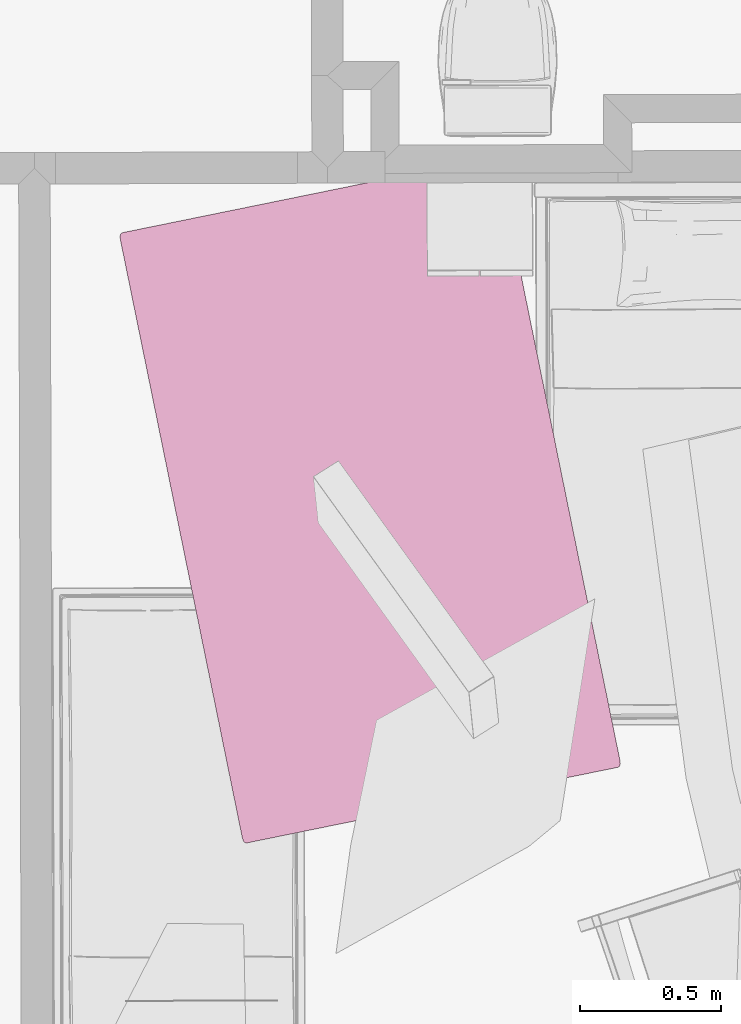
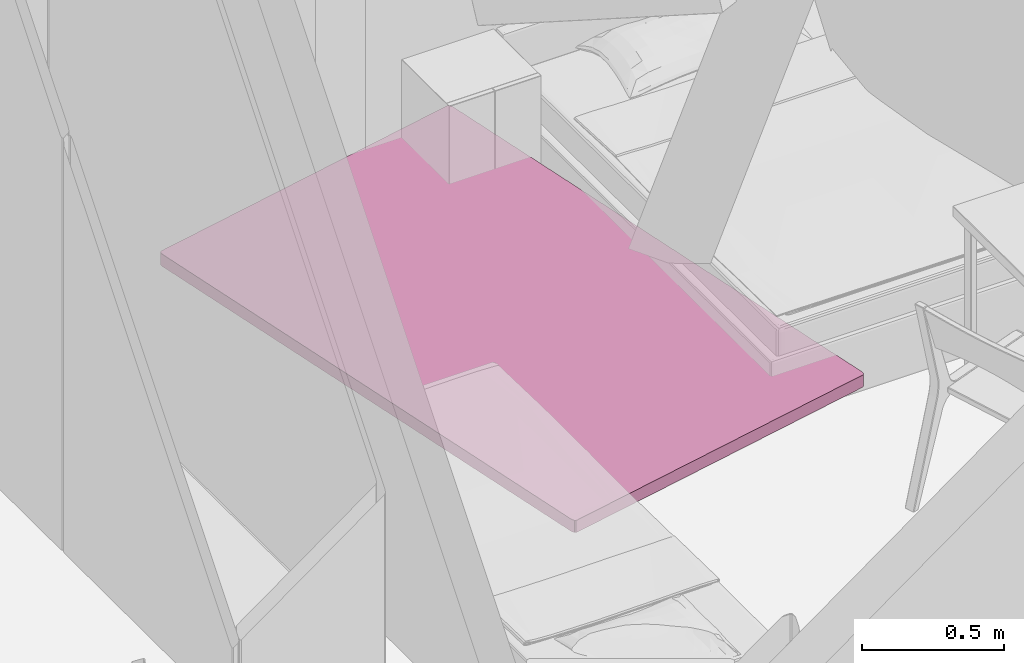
# One storey, part 8 of 15: 1 furniture element.
"""IFC4 building model written with IfcOpenShell, lengths in metres."""

from ifc_helpers import new_model, si_unit, direction, frame, origin_with_axes, place, context, project, spatial, polygons, element, save


model = new_model("IFC4")

# Units and contexts
model_context = context("Model", 3, precision=1e-05, world=origin_with_axes(), true_north=direction((-0.077, 0.997, 0.0)))
ifc_project = project(units=[si_unit("AREAUNIT", "SQUARE_METRE"), si_unit("LENGTHUNIT", "METRE")], contexts=[model_context])

# Site, building, storey, space
site_placement = place(None, origin_with_axes())
site = spatial("IfcSite", under=ifc_project, at=site_placement, Name="Site", CompositionType="ELEMENT")
building_placement = place(site_placement, origin_with_axes())
building = spatial("IfcBuilding", under=site, at=building_placement, Name="Building", CompositionType="ELEMENT")
storey_placement = place(building_placement, frame((0.0, 0.0, 5.71135139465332), z_axis=(0.0, 0.0, 1.0), x_axis=(1.0, 0.0, 0.0)))
storey = spatial("IfcBuildingStorey", under=building, at=storey_placement, Name="Story 2", CompositionType="ELEMENT", Elevation=5.71135139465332)
space_placement = place(storey_placement, frame((4.15984517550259, -1.64373686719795, 0.0), z_axis=(0.0, 0.0, 1.0), x_axis=(1.0, 0.0, 0.0)))
space = spatial("IfcSpace", under=storey, at=space_placement, Name="016", CompositionType="ELEMENT")

# Furniture
furniture_placement = place(space_placement, frame((1.13524597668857, -1.12051078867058, 0.165680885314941), z_axis=(0.0, 0.0, 0.999999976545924), x_axis=(-0.979850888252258, -0.199730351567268, 0.0)))
element("IfcFurniture", 1, at=furniture_placement, inside=space, Name="sb2", PredefinedType="USERDEFINED", context=model_context, shape_type="Tessellation", body=[
    polygons([(-0.6835, 1.0822, 0.0262), (-0.6835, 1.0822, -0.0262), (-0.6835, -1.0822, -0.0262), (-0.6835, -1.0822, 0.0262), (0.6835, 1.0822, 0.0262), (0.6835, -1.0822, 0.0262), (0.6835, -1.0822, -0.0262), (0.6835, 1.0822, -0.0262), (-0.6698, 1.1043, 0.0262), (0.6698, 1.1043, 0.0262), (0.6698, 1.1043, -0.0262), (-0.6698, 1.1043, -0.0262), (-0.6698, 1.0822, -0.0267), (0.6698, 1.0822, -0.0267), (0.6698, -1.0822, -0.0267), (-0.6698, -1.0822, -0.0267), (-0.6698, -1.1043, -0.0262), (0.6698, -1.1043, -0.0262), (0.6698, -1.1043, 0.0262), (-0.6698, -1.1043, 0.0262), (-0.6698, -1.0822, 0.0267), (0.6698, -1.0822, 0.0267), (0.6698, 1.0822, 0.0267), (-0.6698, 1.0822, 0.0267), (-0.6835, 1.0822, 0.0262), (-0.6826, 1.0822, 0.0264), (-0.6817, 1.0912, 0.0264), (-0.6826, 1.0919, 0.0262), (-0.6826, 1.0822, 0.0264), (-0.68, 1.0822, 0.0266), (-0.6796, 1.0898, 0.0266), (-0.6817, 1.0912, 0.0264), (-0.6826, 1.0919, 0.0262), (-0.6817, 1.0912, 0.0264), (-0.6796, 1.0981, 0.0264), (-0.68, 1.0988, 0.0262), (-0.6817, 1.0912, 0.0264), (-0.6796, 1.0898, 0.0266), (-0.6783, 1.096, 0.0265), (-0.6796, 1.0981, 0.0264), (-0.6835, -1.0822, 0.0262), (-0.6826, -1.0919, 0.0262), (-0.6817, -1.0912, 0.0264), (-0.6826, -1.0822, 0.0264), (-0.6826, -1.0919, 0.0262), (-0.68, -1.0988, 0.0262), (-0.6796, -1.0981, 0.0264), (-0.6817, -1.0912, 0.0264), (-0.6826, -1.0822, 0.0264), (-0.6817, -1.0912, 0.0264), (-0.6796, -1.0898, 0.0266), (-0.68, -1.0822, 0.0266), (-0.6817, -1.0912, 0.0264), (-0.6796, -1.0981, 0.0264), (-0.6783, -1.096, 0.0265), (-0.6796, -1.0898, 0.0266), (-0.6835, -1.0822, -0.0262), (-0.6826, -1.0822, -0.0264), (-0.6817, -1.0912, -0.0264), (-0.6826, -1.0919, -0.0262), (-0.6826, -1.0822, -0.0264), (-0.68, -1.0822, -0.0266), (-0.6796, -1.0898, -0.0266), (-0.6817, -1.0912, -0.0264), (-0.6826, -1.0919, -0.0262), (-0.6817, -1.0912, -0.0264), (-0.6796, -1.0981, -0.0264), (-0.68, -1.0988, -0.0262), (-0.6817, -1.0912, -0.0264), (-0.6796, -1.0898, -0.0266), (-0.6783, -1.096, -0.0265), (-0.6796, -1.0981, -0.0264), (-0.6835, 1.0822, -0.0262), (-0.6826, 1.0919, -0.0262), (-0.6817, 1.0912, -0.0264), (-0.6826, 1.0822, -0.0264), (-0.6826, 1.0919, -0.0262), (-0.68, 1.0988, -0.0262), (-0.6796, 1.0981, -0.0264), (-0.6817, 1.0912, -0.0264), (-0.6826, 1.0822, -0.0264), (-0.6817, 1.0912, -0.0264), (-0.6796, 1.0898, -0.0266), (-0.68, 1.0822, -0.0266), (-0.6817, 1.0912, -0.0264), (-0.6796, 1.0981, -0.0264), (-0.6783, 1.096, -0.0265), (-0.6796, 1.0898, -0.0266), (0.6835, 1.0822, 0.0262), (0.6826, 1.0919, 0.0262), (0.6817, 1.0912, 0.0264), (0.6826, 1.0822, 0.0264), (0.6826, 1.0919, 0.0262), (0.68, 1.0988, 0.0262), (0.6796, 1.0981, 0.0264), (0.6817, 1.0912, 0.0264), (0.6826, 1.0822, 0.0264), (0.6817, 1.0912, 0.0264), (0.6796, 1.0898, 0.0266), (0.68, 1.0822, 0.0266), (0.6817, 1.0912, 0.0264), (0.6796, 1.0981, 0.0264), (0.6783, 1.096, 0.0265), (0.6796, 1.0898, 0.0266), (0.6835, 1.0822, -0.0262), (0.6826, 1.0822, -0.0264), (0.6817, 1.0912, -0.0264), (0.6826, 1.0919, -0.0262), (0.6826, 1.0822, -0.0264), (0.68, 1.0822, -0.0266), (0.6796, 1.0898, -0.0266), (0.6817, 1.0912, -0.0264), (0.6826, 1.0919, -0.0262), (0.6817, 1.0912, -0.0264), (0.6796, 1.0981, -0.0264), (0.68, 1.0988, -0.0262), (0.6817, 1.0912, -0.0264), (0.6796, 1.0898, -0.0266), (0.6783, 1.096, -0.0265), (0.6796, 1.0981, -0.0264), (0.6835, -1.0822, -0.0262), (0.6826, -1.0919, -0.0262), (0.6817, -1.0912, -0.0264), (0.6826, -1.0822, -0.0264), (0.6826, -1.0919, -0.0262), (0.68, -1.0988, -0.0262), (0.6796, -1.0981, -0.0264), (0.6817, -1.0912, -0.0264), (0.6826, -1.0822, -0.0264), (0.6817, -1.0912, -0.0264), (0.6796, -1.0898, -0.0266), (0.68, -1.0822, -0.0266), (0.6817, -1.0912, -0.0264), (0.6796, -1.0981, -0.0264), (0.6783, -1.096, -0.0265), (0.6796, -1.0898, -0.0266), (0.6835, -1.0822, 0.0262), (0.6826, -1.0822, 0.0264), (0.6817, -1.0912, 0.0264), (0.6826, -1.0919, 0.0262), (0.6826, -1.0822, 0.0264), (0.68, -1.0822, 0.0266), (0.6796, -1.0898, 0.0266), (0.6817, -1.0912, 0.0264), (0.6826, -1.0919, 0.0262), (0.6817, -1.0912, 0.0264), (0.6796, -1.0981, 0.0264), (0.68, -1.0988, 0.0262), (0.6817, -1.0912, 0.0264), (0.6796, -1.0898, 0.0266), (0.6783, -1.096, 0.0265), (0.6796, -1.0981, 0.0264), (-0.6698, 1.1043, 0.0262), (-0.6758, 1.103, 0.0262), (-0.6753, 1.1016, 0.0264), (-0.6698, 1.103, 0.0264), (-0.6758, 1.103, 0.0262), (-0.68, 1.0988, 0.0262), (-0.6796, 1.0981, 0.0264), (-0.6753, 1.1016, 0.0264), (-0.6698, 1.103, 0.0264), (-0.6753, 1.1016, 0.0264), (-0.6745, 1.0981, 0.0266), (-0.6698, 1.0988, 0.0266), (-0.6753, 1.1016, 0.0264), (-0.6796, 1.0981, 0.0264), (-0.6783, 1.096, 0.0265), (-0.6745, 1.0981, 0.0266), (-0.6698, 1.1043, -0.0262), (-0.6698, 1.103, -0.0264), (-0.6753, 1.1016, -0.0264), (-0.6758, 1.103, -0.0262), (-0.6698, 1.103, -0.0264), (-0.6698, 1.0988, -0.0266), (-0.6745, 1.0981, -0.0266), (-0.6753, 1.1016, -0.0264), (-0.6758, 1.103, -0.0262), (-0.6753, 1.1016, -0.0264), (-0.6796, 1.0981, -0.0264), (-0.68, 1.0988, -0.0262), (-0.6753, 1.1016, -0.0264), (-0.6745, 1.0981, -0.0266), (-0.6783, 1.096, -0.0265), (-0.6796, 1.0981, -0.0264), (0.6698, 1.1043, -0.0262), (0.6758, 1.103, -0.0262), (0.6753, 1.1016, -0.0264), (0.6698, 1.103, -0.0264), (0.6758, 1.103, -0.0262), (0.68, 1.0988, -0.0262), (0.6796, 1.0981, -0.0264), (0.6753, 1.1016, -0.0264), (0.6698, 1.103, -0.0264), (0.6753, 1.1016, -0.0264), (0.6745, 1.0981, -0.0266), (0.6698, 1.0988, -0.0266), (0.6753, 1.1016, -0.0264), (0.6796, 1.0981, -0.0264), (0.6783, 1.096, -0.0265), (0.6745, 1.0981, -0.0266), (0.6698, 1.1043, 0.0262), (0.6698, 1.103, 0.0264), (0.6753, 1.1016, 0.0264), (0.6758, 1.103, 0.0262), (0.6698, 1.103, 0.0264), (0.6698, 1.0988, 0.0266), (0.6745, 1.0981, 0.0266), (0.6753, 1.1016, 0.0264), (0.6758, 1.103, 0.0262), (0.6753, 1.1016, 0.0264), (0.6796, 1.0981, 0.0264), (0.68, 1.0988, 0.0262), (0.6753, 1.1016, 0.0264), (0.6745, 1.0981, 0.0266), (0.6783, 1.096, 0.0265), (0.6796, 1.0981, 0.0264), (-0.6698, 1.0822, -0.0267), (-0.6758, 1.0822, -0.0267), (-0.6753, 1.0912, -0.0267), (-0.6698, 1.0919, -0.0267), (-0.6758, 1.0822, -0.0267), (-0.68, 1.0822, -0.0266), (-0.6796, 1.0898, -0.0266), (-0.6753, 1.0912, -0.0267), (-0.6698, 1.0919, -0.0267), (-0.6753, 1.0912, -0.0267), (-0.6745, 1.0981, -0.0266), (-0.6698, 1.0988, -0.0266), (-0.6753, 1.0912, -0.0267), (-0.6796, 1.0898, -0.0266), (-0.6783, 1.096, -0.0265), (-0.6745, 1.0981, -0.0266), (-0.6698, -1.0822, -0.0267), (-0.6698, -1.0919, -0.0267), (-0.6753, -1.0912, -0.0267), (-0.6758, -1.0822, -0.0267), (-0.6698, -1.0919, -0.0267), (-0.6698, -1.0988, -0.0266), (-0.6745, -1.0981, -0.0266), (-0.6753, -1.0912, -0.0267), (-0.6758, -1.0822, -0.0267), (-0.6753, -1.0912, -0.0267), (-0.6796, -1.0898, -0.0266), (-0.68, -1.0822, -0.0266), (-0.6753, -1.0912, -0.0267), (-0.6745, -1.0981, -0.0266), (-0.6783, -1.096, -0.0265), (-0.6796, -1.0898, -0.0266), (0.6698, -1.0822, -0.0267), (0.6758, -1.0822, -0.0267), (0.6753, -1.0912, -0.0267), (0.6698, -1.0919, -0.0267), (0.6758, -1.0822, -0.0267), (0.68, -1.0822, -0.0266), (0.6796, -1.0898, -0.0266), (0.6753, -1.0912, -0.0267), (0.6698, -1.0919, -0.0267), (0.6753, -1.0912, -0.0267), (0.6745, -1.0981, -0.0266), (0.6698, -1.0988, -0.0266), (0.6753, -1.0912, -0.0267), (0.6796, -1.0898, -0.0266), (0.6783, -1.096, -0.0265), (0.6745, -1.0981, -0.0266), (0.6698, 1.0822, -0.0267), (0.6698, 1.0919, -0.0267), (0.6753, 1.0912, -0.0267), (0.6758, 1.0822, -0.0267), (0.6698, 1.0919, -0.0267), (0.6698, 1.0988, -0.0266), (0.6745, 1.0981, -0.0266), (0.6753, 1.0912, -0.0267), (0.6758, 1.0822, -0.0267), (0.6753, 1.0912, -0.0267), (0.6796, 1.0898, -0.0266), (0.68, 1.0822, -0.0266), (0.6753, 1.0912, -0.0267), (0.6745, 1.0981, -0.0266), (0.6783, 1.096, -0.0265), (0.6796, 1.0898, -0.0266), (-0.6698, -1.1043, -0.0262), (-0.6758, -1.1029, -0.0262), (-0.6753, -1.1016, -0.0264), (-0.6698, -1.1029, -0.0264), (-0.6758, -1.1029, -0.0262), (-0.68, -1.0988, -0.0262), (-0.6796, -1.0981, -0.0264), (-0.6753, -1.1016, -0.0264), (-0.6698, -1.1029, -0.0264), (-0.6753, -1.1016, -0.0264), (-0.6745, -1.0981, -0.0266), (-0.6698, -1.0988, -0.0266), (-0.6753, -1.1016, -0.0264), (-0.6796, -1.0981, -0.0264), (-0.6783, -1.096, -0.0265), (-0.6745, -1.0981, -0.0266), (-0.6698, -1.1043, 0.0262), (-0.6698, -1.1029, 0.0264), (-0.6753, -1.1016, 0.0264), (-0.6758, -1.1029, 0.0262), (-0.6698, -1.1029, 0.0264), (-0.6698, -1.0988, 0.0266), (-0.6745, -1.0981, 0.0266), (-0.6753, -1.1016, 0.0264), (-0.6758, -1.1029, 0.0262), (-0.6753, -1.1016, 0.0264), (-0.6796, -1.0981, 0.0264), (-0.68, -1.0988, 0.0262), (-0.6753, -1.1016, 0.0264), (-0.6745, -1.0981, 0.0266), (-0.6783, -1.096, 0.0265), (-0.6796, -1.0981, 0.0264), (0.6698, -1.1043, 0.0262), (0.6758, -1.1029, 0.0262), (0.6753, -1.1016, 0.0264), (0.6698, -1.1029, 0.0264), (0.6758, -1.1029, 0.0262), (0.68, -1.0988, 0.0262), (0.6796, -1.0981, 0.0264), (0.6753, -1.1016, 0.0264), (0.6698, -1.1029, 0.0264), (0.6753, -1.1016, 0.0264), (0.6745, -1.0981, 0.0266), (0.6698, -1.0988, 0.0266), (0.6753, -1.1016, 0.0264), (0.6796, -1.0981, 0.0264), (0.6783, -1.096, 0.0265), (0.6745, -1.0981, 0.0266), (0.6698, -1.1043, -0.0262), (0.6698, -1.1029, -0.0264), (0.6753, -1.1016, -0.0264), (0.6758, -1.1029, -0.0262), (0.6698, -1.1029, -0.0264), (0.6698, -1.0988, -0.0266), (0.6745, -1.0981, -0.0266), (0.6753, -1.1016, -0.0264), (0.6758, -1.1029, -0.0262), (0.6753, -1.1016, -0.0264), (0.6796, -1.0981, -0.0264), (0.68, -1.0988, -0.0262), (0.6753, -1.1016, -0.0264), (0.6745, -1.0981, -0.0266), (0.6783, -1.096, -0.0265), (0.6796, -1.0981, -0.0264), (-0.6698, -1.0822, 0.0267), (-0.6758, -1.0822, 0.0267), (-0.6753, -1.0912, 0.0267), (-0.6698, -1.0919, 0.0267), (-0.6758, -1.0822, 0.0267), (-0.68, -1.0822, 0.0266), (-0.6796, -1.0898, 0.0266), (-0.6753, -1.0912, 0.0267), (-0.6698, -1.0919, 0.0267), (-0.6753, -1.0912, 0.0267), (-0.6745, -1.0981, 0.0266), (-0.6698, -1.0988, 0.0266), (-0.6753, -1.0912, 0.0267), (-0.6796, -1.0898, 0.0266), (-0.6783, -1.096, 0.0265), (-0.6745, -1.0981, 0.0266), (-0.6698, 1.0822, 0.0267), (-0.6698, 1.0919, 0.0267), (-0.6753, 1.0912, 0.0267), (-0.6758, 1.0822, 0.0267), (-0.6698, 1.0919, 0.0267), (-0.6698, 1.0988, 0.0266), (-0.6745, 1.0981, 0.0266), (-0.6753, 1.0912, 0.0267), (-0.6758, 1.0822, 0.0267), (-0.6753, 1.0912, 0.0267), (-0.6796, 1.0898, 0.0266), (-0.68, 1.0822, 0.0266), (-0.6753, 1.0912, 0.0267), (-0.6745, 1.0981, 0.0266), (-0.6783, 1.096, 0.0265), (-0.6796, 1.0898, 0.0266), (0.6698, 1.0822, 0.0267), (0.6758, 1.0822, 0.0267), (0.6753, 1.0912, 0.0267), (0.6698, 1.0919, 0.0267), (0.6758, 1.0822, 0.0267), (0.68, 1.0822, 0.0266), (0.6796, 1.0898, 0.0266), (0.6753, 1.0912, 0.0267), (0.6698, 1.0919, 0.0267), (0.6753, 1.0912, 0.0267), (0.6745, 1.0981, 0.0266), (0.6698, 1.0988, 0.0266), (0.6753, 1.0912, 0.0267), (0.6796, 1.0898, 0.0266), (0.6783, 1.096, 0.0265), (0.6745, 1.0981, 0.0266), (0.6698, -1.0822, 0.0267), (0.6698, -1.0919, 0.0267), (0.6753, -1.0912, 0.0267), (0.6758, -1.0822, 0.0267), (0.6698, -1.0919, 0.0267), (0.6698, -1.0988, 0.0266), (0.6745, -1.0981, 0.0266), (0.6753, -1.0912, 0.0267), (0.6758, -1.0822, 0.0267), (0.6753, -1.0912, 0.0267), (0.6796, -1.0898, 0.0266), (0.68, -1.0822, 0.0266), (0.6753, -1.0912, 0.0267), (0.6745, -1.0981, 0.0266), (0.6783, -1.096, 0.0265), (0.6796, -1.0898, 0.0266), (-0.6835, -1.0822, 0.0262), (-0.6826, -1.0822, 0.0264), (-0.6826, 1.0822, 0.0264), (-0.6835, 1.0822, 0.0262), (-0.6826, -1.0822, 0.0264), (-0.68, -1.0822, 0.0266), (-0.68, 1.0822, 0.0266), (-0.6826, 1.0822, 0.0264), (-0.6835, -1.0822, -0.0262), (-0.6826, -1.0919, -0.0262), (-0.6826, -1.0919, 0.0262), (-0.6835, -1.0822, 0.0262), (-0.6826, -1.0919, -0.0262), (-0.68, -1.0988, -0.0262), (-0.68, -1.0988, 0.0262), (-0.6826, -1.0919, 0.0262), (-0.6835, 1.0822, -0.0262), (-0.6826, 1.0822, -0.0264), (-0.6826, -1.0822, -0.0264), (-0.6835, -1.0822, -0.0262), (-0.6826, 1.0822, -0.0264), (-0.68, 1.0822, -0.0266), (-0.68, -1.0822, -0.0266), (-0.6826, -1.0822, -0.0264), (-0.6835, 1.0822, 0.0262), (-0.6826, 1.0919, 0.0262), (-0.6826, 1.0919, -0.0262), (-0.6835, 1.0822, -0.0262), (-0.6826, 1.0919, 0.0262), (-0.68, 1.0988, 0.0262), (-0.68, 1.0988, -0.0262), (-0.6826, 1.0919, -0.0262), (0.6835, 1.0822, -0.0262), (0.6826, 1.0919, -0.0262), (0.6826, 1.0919, 0.0262), (0.6835, 1.0822, 0.0262), (0.6826, 1.0919, -0.0262), (0.68, 1.0988, -0.0262), (0.68, 1.0988, 0.0262), (0.6826, 1.0919, 0.0262), (0.6835, -1.0822, -0.0262), (0.6826, -1.0822, -0.0264), (0.6826, 1.0822, -0.0264), (0.6835, 1.0822, -0.0262), (0.6826, -1.0822, -0.0264), (0.68, -1.0822, -0.0266), (0.68, 1.0822, -0.0266), (0.6826, 1.0822, -0.0264), (0.6835, -1.0822, 0.0262), (0.6826, -1.0919, 0.0262), (0.6826, -1.0919, -0.0262), (0.6835, -1.0822, -0.0262), (0.6826, -1.0919, 0.0262), (0.68, -1.0988, 0.0262), (0.68, -1.0988, -0.0262), (0.6826, -1.0919, -0.0262), (0.6835, 1.0822, 0.0262), (0.6826, 1.0822, 0.0264), (0.6826, -1.0822, 0.0264), (0.6835, -1.0822, 0.0262), (0.6826, 1.0822, 0.0264), (0.68, 1.0822, 0.0266), (0.68, -1.0822, 0.0266), (0.6826, -1.0822, 0.0264), (-0.6698, 1.1043, -0.0262), (-0.6758, 1.103, -0.0262), (-0.6758, 1.103, 0.0262), (-0.6698, 1.1043, 0.0262), (-0.6758, 1.103, -0.0262), (-0.68, 1.0988, -0.0262), (-0.68, 1.0988, 0.0262), (-0.6758, 1.103, 0.0262), (0.6698, 1.1043, -0.0262), (0.6698, 1.103, -0.0264), (-0.6698, 1.103, -0.0264), (-0.6698, 1.1043, -0.0262), (0.6698, 1.103, -0.0264), (0.6698, 1.0988, -0.0266), (-0.6698, 1.0988, -0.0266), (-0.6698, 1.103, -0.0264), (0.6698, 1.1043, 0.0262), (0.6758, 1.103, 0.0262), (0.6758, 1.103, -0.0262), (0.6698, 1.1043, -0.0262), (0.6758, 1.103, 0.0262), (0.68, 1.0988, 0.0262), (0.68, 1.0988, -0.0262), (0.6758, 1.103, -0.0262), (-0.6698, 1.1043, 0.0262), (-0.6698, 1.103, 0.0264), (0.6698, 1.103, 0.0264), (0.6698, 1.1043, 0.0262), (-0.6698, 1.103, 0.0264), (-0.6698, 1.0988, 0.0266), (0.6698, 1.0988, 0.0266), (0.6698, 1.103, 0.0264), (-0.6698, -1.0822, -0.0267), (-0.6758, -1.0822, -0.0267), (-0.6758, 1.0822, -0.0267), (-0.6698, 1.0822, -0.0267), (-0.6758, -1.0822, -0.0267), (-0.68, -1.0822, -0.0266), (-0.68, 1.0822, -0.0266), (-0.6758, 1.0822, -0.0267), (0.6698, -1.0822, -0.0267), (0.6698, -1.0919, -0.0267), (-0.6698, -1.0919, -0.0267), (-0.6698, -1.0822, -0.0267), (0.6698, -1.0919, -0.0267), (0.6698, -1.0988, -0.0266), (-0.6698, -1.0988, -0.0266), (-0.6698, -1.0919, -0.0267), (0.6698, 1.0822, -0.0267), (0.6758, 1.0822, -0.0267), (0.6758, -1.0822, -0.0267), (0.6698, -1.0822, -0.0267), (0.6758, 1.0822, -0.0267), (0.68, 1.0822, -0.0266), (0.68, -1.0822, -0.0266), (0.6758, -1.0822, -0.0267), (-0.6698, 1.0822, -0.0267), (-0.6698, 1.0919, -0.0267), (0.6698, 1.0919, -0.0267), (0.6698, 1.0822, -0.0267), (-0.6698, 1.0919, -0.0267), (-0.6698, 1.0988, -0.0266), (0.6698, 1.0988, -0.0266), (0.6698, 1.0919, -0.0267), (-0.6698, -1.1043, 0.0262), (-0.6758, -1.1029, 0.0262), (-0.6758, -1.1029, -0.0262), (-0.6698, -1.1043, -0.0262), (-0.6758, -1.1029, 0.0262), (-0.68, -1.0988, 0.0262), (-0.68, -1.0988, -0.0262), (-0.6758, -1.1029, -0.0262), (0.6698, -1.1043, 0.0262), (0.6698, -1.1029, 0.0264), (-0.6698, -1.1029, 0.0264), (-0.6698, -1.1043, 0.0262), (0.6698, -1.1029, 0.0264), (0.6698, -1.0988, 0.0266), (-0.6698, -1.0988, 0.0266), (-0.6698, -1.1029, 0.0264), (0.6698, -1.1043, -0.0262), (0.6758, -1.1029, -0.0262), (0.6758, -1.1029, 0.0262), (0.6698, -1.1043, 0.0262), (0.6758, -1.1029, -0.0262), (0.68, -1.0988, -0.0262), (0.68, -1.0988, 0.0262), (0.6758, -1.1029, 0.0262), (-0.6698, -1.1043, -0.0262), (-0.6698, -1.1029, -0.0264), (0.6698, -1.1029, -0.0264), (0.6698, -1.1043, -0.0262), (-0.6698, -1.1029, -0.0264), (-0.6698, -1.0988, -0.0266), (0.6698, -1.0988, -0.0266), (0.6698, -1.1029, -0.0264), (-0.6698, 1.0822, 0.0267), (-0.6758, 1.0822, 0.0267), (-0.6758, -1.0822, 0.0267), (-0.6698, -1.0822, 0.0267), (-0.6758, 1.0822, 0.0267), (-0.68, 1.0822, 0.0266), (-0.68, -1.0822, 0.0266), (-0.6758, -1.0822, 0.0267), (0.6698, 1.0822, 0.0267), (0.6698, 1.0919, 0.0267), (-0.6698, 1.0919, 0.0267), (-0.6698, 1.0822, 0.0267), (0.6698, 1.0919, 0.0267), (0.6698, 1.0988, 0.0266), (-0.6698, 1.0988, 0.0266), (-0.6698, 1.0919, 0.0267), (0.6698, -1.0822, 0.0267), (0.6758, -1.0822, 0.0267), (0.6758, 1.0822, 0.0267), (0.6698, 1.0822, 0.0267), (0.6758, -1.0822, 0.0267), (0.68, -1.0822, 0.0266), (0.68, 1.0822, 0.0266), (0.6758, 1.0822, 0.0267), (-0.6698, -1.0822, 0.0267), (-0.6698, -1.0919, 0.0267), (0.6698, -1.0919, 0.0267), (0.6698, -1.0822, 0.0267), (-0.6698, -1.0919, 0.0267), (-0.6698, -1.0988, 0.0266), (0.6698, -1.0988, 0.0266), (0.6698, -1.0919, 0.0267)], [[[1, 2, 3, 4]], [[5, 6, 7, 8]], [[9, 10, 11, 12]], [[13, 14, 15, 16]], [[17, 18, 19, 20]], [[21, 22, 23, 24]], [[25, 26, 27, 28]], [[29, 30, 31, 32]], [[33, 34, 35, 36]], [[37, 38, 39, 40]], [[41, 42, 43, 44]], [[45, 46, 47, 48]], [[49, 50, 51, 52]], [[53, 54, 55, 56]], [[57, 58, 59, 60]], [[61, 62, 63, 64]], [[65, 66, 67, 68]], [[69, 70, 71, 72]], [[73, 74, 75, 76]], [[77, 78, 79, 80]], [[81, 82, 83, 84]], [[85, 86, 87, 88]], [[89, 90, 91, 92]], [[93, 94, 95, 96]], [[97, 98, 99, 100]], [[101, 102, 103, 104]], [[105, 106, 107, 108]], [[109, 110, 111, 112]], [[113, 114, 115, 116]], [[117, 118, 119, 120]], [[121, 122, 123, 124]], [[125, 126, 127, 128]], [[129, 130, 131, 132]], [[133, 134, 135, 136]], [[137, 138, 139, 140]], [[141, 142, 143, 144]], [[145, 146, 147, 148]], [[149, 150, 151, 152]], [[153, 154, 155, 156]], [[157, 158, 159, 160]], [[161, 162, 163, 164]], [[165, 166, 167, 168]], [[169, 170, 171, 172]], [[173, 174, 175, 176]], [[177, 178, 179, 180]], [[181, 182, 183, 184]], [[185, 186, 187, 188]], [[189, 190, 191, 192]], [[193, 194, 195, 196]], [[197, 198, 199, 200]], [[201, 202, 203, 204]], [[205, 206, 207, 208]], [[209, 210, 211, 212]], [[213, 214, 215, 216]], [[217, 218, 219, 220]], [[221, 222, 223, 224]], [[225, 226, 227, 228]], [[229, 230, 231, 232]], [[233, 234, 235, 236]], [[237, 238, 239, 240]], [[241, 242, 243, 244]], [[245, 246, 247, 248]], [[249, 250, 251, 252]], [[253, 254, 255, 256]], [[257, 258, 259, 260]], [[261, 262, 263, 264]], [[265, 266, 267, 268]], [[269, 270, 271, 272]], [[273, 274, 275, 276]], [[277, 278, 279, 280]], [[281, 282, 283, 284]], [[285, 286, 287, 288]], [[289, 290, 291, 292]], [[293, 294, 295, 296]], [[297, 298, 299, 300]], [[301, 302, 303, 304]], [[305, 306, 307, 308]], [[309, 310, 311, 312]], [[313, 314, 315, 316]], [[317, 318, 319, 320]], [[321, 322, 323, 324]], [[325, 326, 327, 328]], [[329, 330, 331, 332]], [[333, 334, 335, 336]], [[337, 338, 339, 340]], [[341, 342, 343, 344]], [[345, 346, 347, 348]], [[349, 350, 351, 352]], [[353, 354, 355, 356]], [[357, 358, 359, 360]], [[361, 362, 363, 364]], [[365, 366, 367, 368]], [[369, 370, 371, 372]], [[373, 374, 375, 376]], [[377, 378, 379, 380]], [[381, 382, 383, 384]], [[385, 386, 387, 388]], [[389, 390, 391, 392]], [[393, 394, 395, 396]], [[397, 398, 399, 400]], [[401, 402, 403, 404]], [[405, 406, 407, 408]], [[409, 410, 411, 412]], [[413, 414, 415, 416]], [[417, 418, 419, 420]], [[421, 422, 423, 424]], [[425, 426, 427, 428]], [[429, 430, 431, 432]], [[433, 434, 435, 436]], [[437, 438, 439, 440]], [[441, 442, 443, 444]], [[445, 446, 447, 448]], [[449, 450, 451, 452]], [[453, 454, 455, 456]], [[457, 458, 459, 460]], [[461, 462, 463, 464]], [[465, 466, 467, 468]], [[469, 470, 471, 472]], [[473, 474, 475, 476]], [[477, 478, 479, 480]], [[481, 482, 483, 484]], [[485, 486, 487, 488]], [[489, 490, 491, 492]], [[493, 494, 495, 496]], [[497, 498, 499, 500]], [[501, 502, 503, 504]], [[505, 506, 507, 508]], [[509, 510, 511, 512]], [[513, 514, 515, 516]], [[517, 518, 519, 520]], [[521, 522, 523, 524]], [[525, 526, 527, 528]], [[529, 530, 531, 532]], [[533, 534, 535, 536]], [[537, 538, 539, 540]], [[541, 542, 543, 544]], [[545, 546, 547, 548]], [[549, 550, 551, 552]], [[553, 554, 555, 556]], [[557, 558, 559, 560]], [[561, 562, 563, 564]], [[565, 566, 567, 568]], [[569, 570, 571, 572]], [[573, 574, 575, 576]], [[577, 578, 579, 580]], [[581, 582, 583, 584]], [[585, 586, 587, 588]], [[589, 590, 591, 592]], [[593, 594, 595, 596]], [[597, 598, 599, 600]]]),
])

save(model, "model.ifc")
